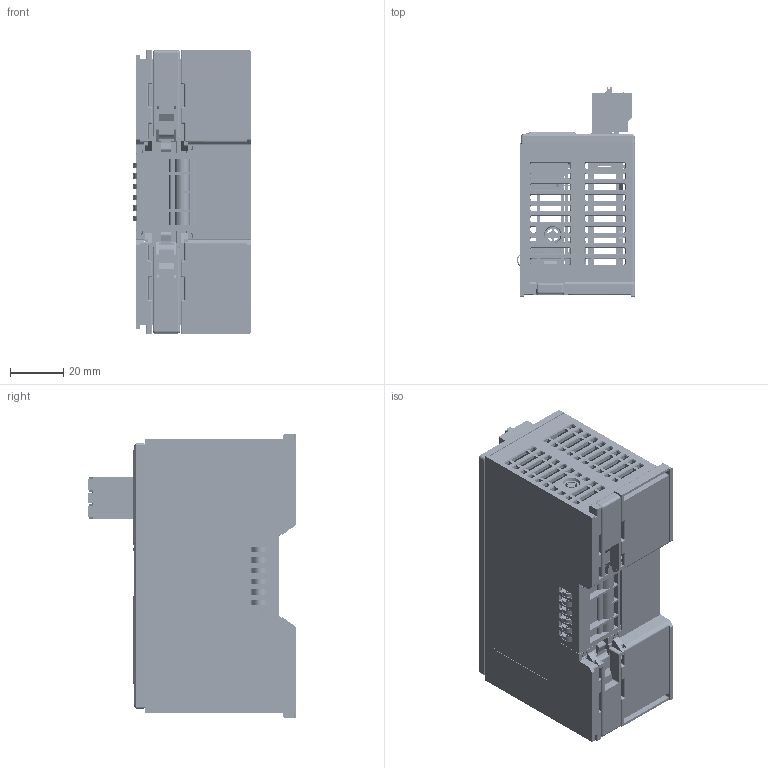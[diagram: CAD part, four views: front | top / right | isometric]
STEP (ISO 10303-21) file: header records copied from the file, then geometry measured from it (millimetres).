
FILE_DESCRIPTION((''),'2;1');
FILE_NAME('ASM0001_ASM','2024-05-22T14:05:11',('董'),(''),'CREO PARAMETRIC BY PTC INC, 2020033','CREO PARAMETRIC BY PTC INC, 2020033','');
FILE_SCHEMA(('CONFIG_CONTROL_DESIGN'));
Products named in the file (3): PRO_XB6S_DC; 2EDGKD-5_08-03P-1Y-00A_H_2_; ASM0001_ASM
Assembly tree (2 placements, depth 2):
  ASM0001_ASM
    PRO_XB6S_DC
    2EDGKD-5_08-03P-1Y-00A_H_2_
Bounding box: 44.35 x 78.4 x 106.4 mm (x, y, z)
Volume: 71189.7 mm3; surface area: 101639 mm2
Topology: 2 solids, 2 shells, 9056 faces, 26824 edges, 17255 vertices
Faces by surface type: plane 6301, cylinder 2097, bspline 410, torus 93, cone 93, sphere 62
Entity records: 318381 total; most frequent: CARTESIAN_POINT 78333, ORIENTED_EDGE 53524, DIRECTION 45358, EDGE_CURVE 26762, VECTOR 20924, LINE 20924, VERTEX_POINT 17255, AXIS2_PLACEMENT_3D 12217
